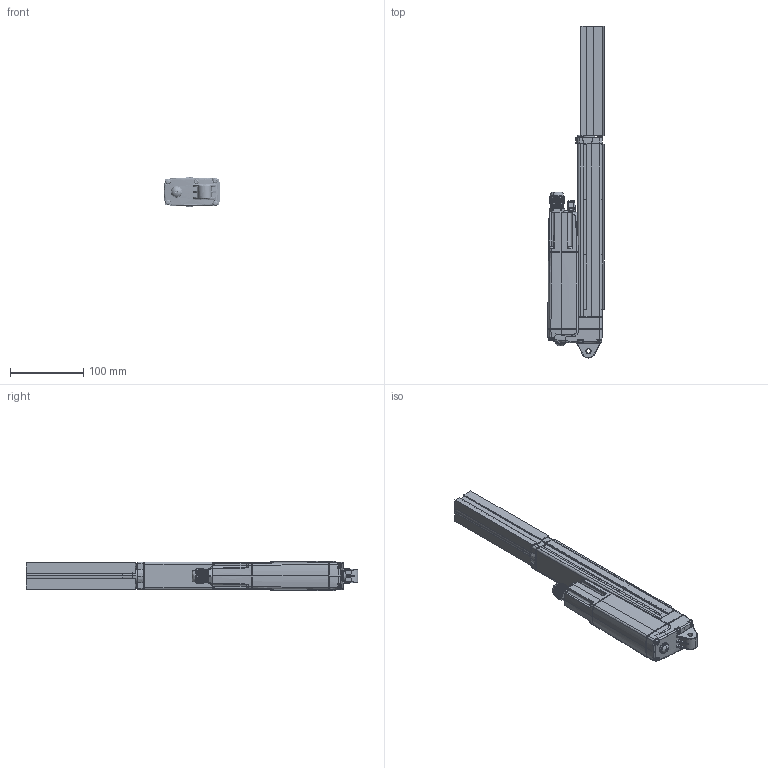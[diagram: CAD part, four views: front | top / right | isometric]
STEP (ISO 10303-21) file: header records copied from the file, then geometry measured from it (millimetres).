
FILE_DESCRIPTION (( 'STEP AP203' ), '1' );
FILE_NAME ('MA4-0001-003-T.STEP', '2021-06-15T06:49:22', ( '' ), ( '' ), 'SwSTEP 2.0', 'SolidWorks 2015', '' );
FILE_SCHEMA (( 'CONFIG_CONTROL_DESIGN' ));
Length unit declared in the file: millimetre
Products named in the file (28): 32506-004-滅嶺え; 31406-077-防水墊圈; MA4-0001-003-T; 33903-416-22-M4x22_May; 32209-8401-236-2-俋奪; 31406-061-ｷﾀﾋｮ榎ﾈｦ-PCBﾉw?ﾄｾﾏz; 31406-063-防水墊圈_?木橡膠; 31805-092-滅阨諉螹; T40511-075-脣螹-A; T31406-007-耐磨墊圈-D; 31802-142-2-奻傷諉螹; T31406-025_防水墊圈; 31501-136-齒?箱體_V3; 31406-062-防水墊圈-外管; T33610-093-O倰虐-A; 33903-416-40-M4x40; 31501-151-齒?箱蓋_V2; 33903-437-6-手動?放螺絲; T30904-006-漪蚐嵞創; 33101-010-防擺環; 33903-415-5_M3X5; 33903-416-25-M4x25_May; 32109-1308-235-不鏽?內管; 33710-025-蚐猾; T31406-006-耐磨墊圈-D; 33903-272; 33903-415-10_M3X10; 31601-091-俋欶奻屳
Assembly tree (48 placements, depth 2):
  MA4-0001-003-T
    31802-142-2-奻傷諉螹
    32109-1308-235-不鏽?內管
    32209-8401-236-2-俋奪
    33101-010-防擺環
    31406-062-防水墊圈-外管  x2
    33710-025-蚐猾
    33903-416-25-M4x25_May  x6
    T31406-025_防水墊圈  x9
    31501-136-齒?箱體_V3
    33903-272
    T31406-006-耐磨墊圈-D  x2
    T31406-007-耐磨墊圈-D
    T30904-006-漪蚐嵞創
    31406-063-防水墊圈_?木橡膠
    33903-437-6-手動?放螺絲
    31406-077-防水墊圈
    31406-061-ｷﾀﾋｮ榎ﾈｦ-PCBﾉw?ﾄｾﾏz
    31601-091-俋欶奻屳
    33903-415-10_M3X10  x4
    31805-092-滅阨諉螹
    T40511-075-脣螹-A
    T33610-093-O倰虐-A  x2
    32506-004-滅嶺え
    33903-415-5_M3X5  x2
    31501-151-齒?箱蓋_V2
    33903-416-40-M4x40
    33903-416-22-M4x22_May  x2
Bounding box: 77.29 x 452.99 x 39.93 mm (x, y, z)
Volume: 355730.2 mm3; surface area: 375204.7 mm2
Topology: 51 solids, 58 shells, 5164 faces, 13536 edges, 8453 vertices
Faces by surface type: cylinder 1601, plane 1409, bspline 1092, torus 718, cone 308, sphere 36
Entity records: 173896 total; most frequent: CARTESIAN_POINT 72623, ORIENTED_EDGE 22069, DIRECTION 18318, EDGE_CURVE 11289, VERTEX_POINT 7079, AXIS2_PLACEMENT_3D 7011, EDGE_LOOP 4530, LINE 4296
